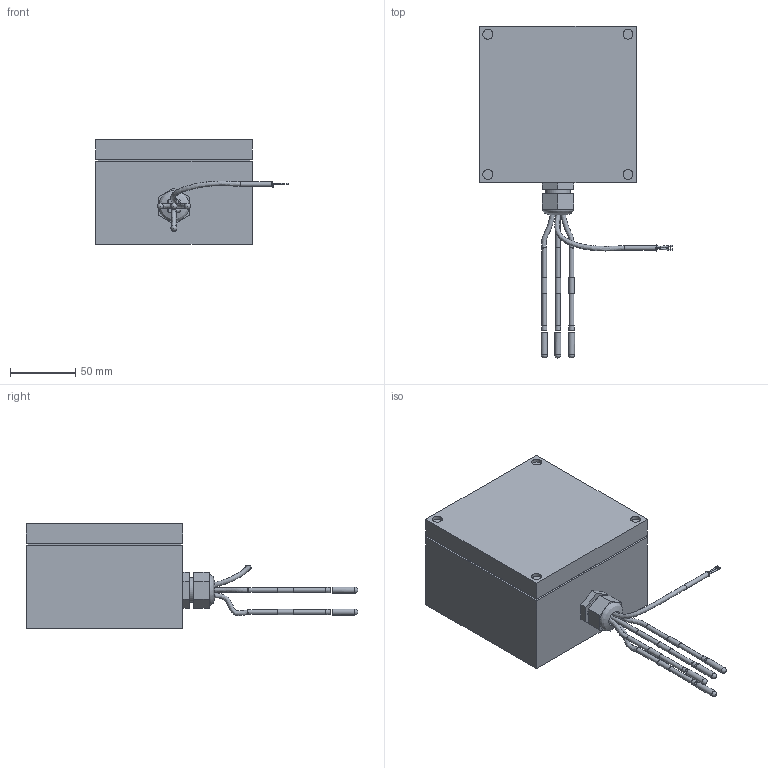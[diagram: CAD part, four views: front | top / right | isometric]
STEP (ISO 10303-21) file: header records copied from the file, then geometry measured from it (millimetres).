
FILE_DESCRIPTION(/* description */ (''),/* implementation_level */ '2;1');
FILE_NAME(/* name */ 'R:\Temp\J. Narvaez\IAN DRAWINGS\002 - Sensors\002 - MCS-T100-AVG-20\MCS-T100-AVG.stp',/* time_stamp */ '2022-11-14T09:42:52-05:00',/* author */ ('mjeter'),/* organization */ ('unknown'),/* preprocessor_version */ 'ST-DEVELOPER v19',/* originating_system */ 'Autodesk Inventor 2023',/* authorisation */ '');
FILE_SCHEMA (('AUTOMOTIVE_DESIGN { 1 0 10303 214 3 1 1 }'));
Length unit declared in the file: inch
Products named in the file (1): MCS-T100-AVG
Bounding box: 147.55 x 253.84 x 79.98 mm (x, y, z)
Volume: 346528.3 mm3; surface area: 176173.4 mm2
Topology: 25 solids, 25 shells, 758 faces, 1883 edges, 1233 vertices
Faces by surface type: plane 637, cylinder 83, cone 19, bspline 11, sphere 8
Full cylindrical faces by diameter (mm): 0.613 x3, 1.226 x4, 3.556 x9, 3.985 x4, 4.046 x4, 4.242 x4, 4.598 x4, 7.62 x8, 12.192 x1, 19.05 x1
Entity records: 26172 total; most frequent: CARTESIAN_POINT 8202, ORIENTED_EDGE 3756, DIRECTION 3467, EDGE_CURVE 1878, LINE 1557, VECTOR 1557, VERTEX_POINT 1232, AXIS2_PLACEMENT_3D 955
